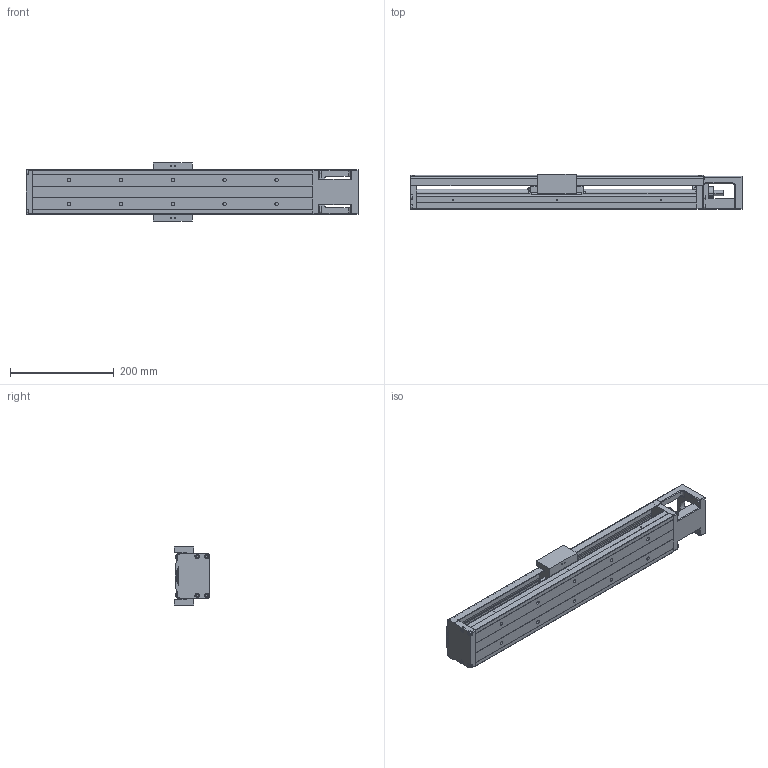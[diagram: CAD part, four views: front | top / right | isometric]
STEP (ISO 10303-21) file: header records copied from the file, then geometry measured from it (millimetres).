
FILE_DESCRIPTION (( 'STEP AP203' ), '1' );
FILE_NAME ('HKK86D20C-540A1-F0C.stp', '2021-11-26T08:09:45', ( '' ), ( '' ), 'SwSTEP 2.0', 'SolidWorks 2018', '' );
FILE_SCHEMA (( 'CONFIG_CONTROL_DESIGN' ));
Length unit declared in the file: millimetre
Products named in the file (1): HKK86D20C-540A1-F0C
Bounding box: 640 x 68 x 112 mm (x, y, z)
Volume: 1623166.1 mm3; surface area: 418649.7 mm2
Topology: 2 solids, 11 shells, 819 faces, 2157 edges, 1366 vertices
Faces by surface type: plane 443, cylinder 277, cone 74, sphere 9, bspline 8, torus 8
Entity records: 25661 total; most frequent: CARTESIAN_POINT 5239, DIRECTION 4259, ORIENTED_EDGE 4190, EDGE_CURVE 2095, AXIS2_PLACEMENT_3D 1425, LINE 1409, VECTOR 1409, VERTEX_POINT 1362
